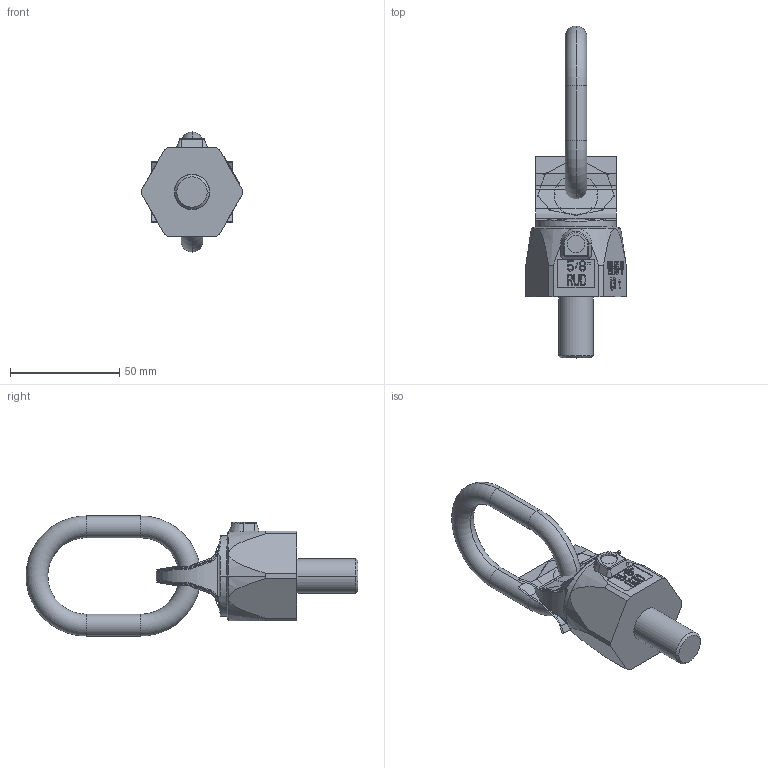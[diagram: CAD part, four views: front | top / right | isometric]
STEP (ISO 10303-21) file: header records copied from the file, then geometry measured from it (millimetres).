
FILE_DESCRIPTION((''),'2;1');
FILE_NAME('001-M09397-P-7_ASM','2005-01-11T',('jakubetz'),(''),'PRO/ENGINEER BY PARAMETRIC TECHNOLOGY CORPORATION, 2001400','PRO/ENGINEER BY PARAMETRIC TECHNOLOGY CORPORATION, 2001400','');
FILE_SCHEMA(('CONFIG_CONTROL_DESIGN'));
Length unit declared in the file: millimetre
Products named in the file (5): 001-M09397-P-7; 001-M09397-P-8; 001-M09397-P-2; 001-M09397-P-3; 001-M09397-P-7_ASM
Assembly tree (4 placements, depth 2):
  001-M09397-P-7_ASM
    001-M09397-P-7
    001-M09397-P-8
    001-M09397-P-2
    001-M09397-P-3
Bounding box: 46 x 152 x 55 mm (x, y, z)
Volume: 73442.6 mm3; surface area: 30543.9 mm2
Topology: 4 solids, 8 shells, 723 faces, 1949 edges, 1262 vertices
Faces by surface type: plane 525, cylinder 94, bspline 68, cone 21, torus 15
Entity records: 25024 total; most frequent: CARTESIAN_POINT 7327, ORIENTED_EDGE 3842, DIRECTION 3282, EDGE_CURVE 1949, VECTOR 1512, LINE 1512, VERTEX_POINT 1262, AXIS2_PLACEMENT_3D 885
